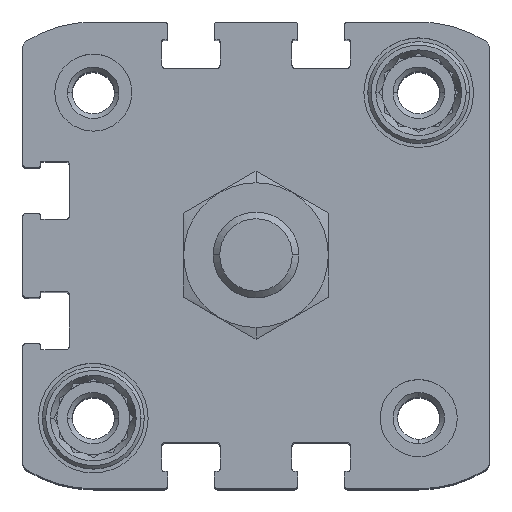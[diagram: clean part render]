
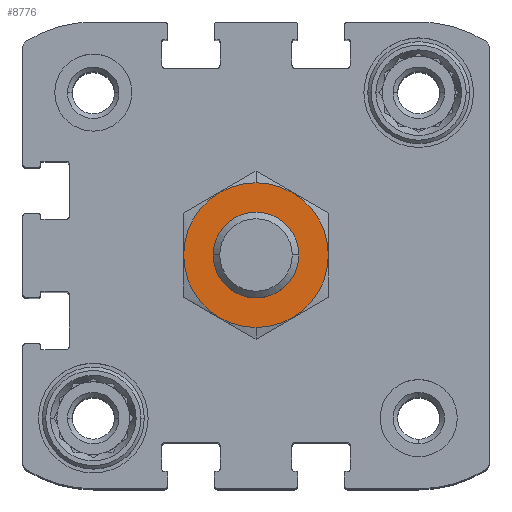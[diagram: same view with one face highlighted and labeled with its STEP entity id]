
A CAD part, top view. The second image highlights one B-rep face of the part: STEP entity #8776.
In plain terms, the highlighted planar face has unit normal (0, 0, 1).
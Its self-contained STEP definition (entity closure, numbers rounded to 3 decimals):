
#419 = DIRECTION ( 'NONE',  ( 0., 0., -1. ) ) ;
#735 = CARTESIAN_POINT ( 'NONE',  ( 0., -5., 15.8 ) ) ;
#1263 = AXIS2_PLACEMENT_3D ( 'NONE', #9839, #13518, #14917 ) ;
#2511 = DIRECTION ( 'NONE',  ( 0., 1., 0. ) ) ;
#3648 = ORIENTED_EDGE ( 'NONE', *, *, #16141, .T. ) ;
#3906 = CARTESIAN_POINT ( 'NONE',  ( 0., 0., 15.8 ) ) ;
#3985 = CIRCLE ( 'NONE', #14376, 8.45 ) ;
#4463 = ORIENTED_EDGE ( 'NONE', *, *, #15739, .T. ) ;
#4663 = VERTEX_POINT ( 'NONE', #11177 ) ;
#5550 = ORIENTED_EDGE ( 'NONE', *, *, #8243, .F. ) ;
#5612 = PLANE ( 'NONE',  #1263 ) ;
#6311 = AXIS2_PLACEMENT_3D ( 'NONE', #7851, #16408, #14684 ) ;
#6645 = DIRECTION ( 'NONE',  ( 0., 0., -1. ) ) ;
#6772 = CARTESIAN_POINT ( 'NONE',  ( 0., 5., 15.8 ) ) ;
#7061 = VERTEX_POINT ( 'NONE', #735 ) ;
#7228 = ORIENTED_EDGE ( 'NONE', *, *, #13406, .F. ) ;
#7851 = CARTESIAN_POINT ( 'NONE',  ( 0., 0., 15.8 ) ) ;
#8243 = EDGE_CURVE ( 'NONE', #4663, #16512, #3985, .T. ) ;
#8674 = VERTEX_POINT ( 'NONE', #6772 ) ;
#8776 = ADVANCED_FACE ( 'NONE', ( #10900, #13781 ), #5612, .F. ) ;
#9289 = DIRECTION ( 'NONE',  ( 0., 0., -1. ) ) ;
#9366 = EDGE_LOOP ( 'NONE', ( #5550, #7228 ) ) ;
#9460 = CARTESIAN_POINT ( 'NONE',  ( 0., 0., 15.8 ) ) ;
#9609 = CARTESIAN_POINT ( 'NONE',  ( 0., -8.45, 15.8 ) ) ;
#9839 = CARTESIAN_POINT ( 'NONE',  ( 0., 0., 15.8 ) ) ;
#10688 = CIRCLE ( 'NONE', #10971, 8.45 ) ;
#10900 = FACE_OUTER_BOUND ( 'NONE', #9366, .T. ) ;
#10971 = AXIS2_PLACEMENT_3D ( 'NONE', #12451, #419, #16221 ) ;
#10992 = CIRCLE ( 'NONE', #16030, 5. ) ;
#11177 = CARTESIAN_POINT ( 'NONE',  ( 0., 8.45, 15.8 ) ) ;
#12451 = CARTESIAN_POINT ( 'NONE',  ( 0., 0., 15.8 ) ) ;
#13406 = EDGE_CURVE ( 'NONE', #16512, #4663, #10688, .T. ) ;
#13518 = DIRECTION ( 'NONE',  ( 0., 0., -1. ) ) ;
#13781 = FACE_BOUND ( 'NONE', #16310, .T. ) ;
#14376 = AXIS2_PLACEMENT_3D ( 'NONE', #3906, #6645, #2511 ) ;
#14684 = DIRECTION ( 'NONE',  ( 0., 1., 0. ) ) ;
#14917 = DIRECTION ( 'NONE',  ( 0., 1., 0. ) ) ;
#15739 = EDGE_CURVE ( 'NONE', #8674, #7061, #16963, .T. ) ;
#16030 = AXIS2_PLACEMENT_3D ( 'NONE', #9460, #9289, #16034 ) ;
#16034 = DIRECTION ( 'NONE',  ( 0., 1., 0. ) ) ;
#16141 = EDGE_CURVE ( 'NONE', #7061, #8674, #10992, .T. ) ;
#16221 = DIRECTION ( 'NONE',  ( 0., 1., 0. ) ) ;
#16310 = EDGE_LOOP ( 'NONE', ( #3648, #4463 ) ) ;
#16408 = DIRECTION ( 'NONE',  ( 0., 0., -1. ) ) ;
#16512 = VERTEX_POINT ( 'NONE', #9609 ) ;
#16963 = CIRCLE ( 'NONE', #6311, 5. ) ;
